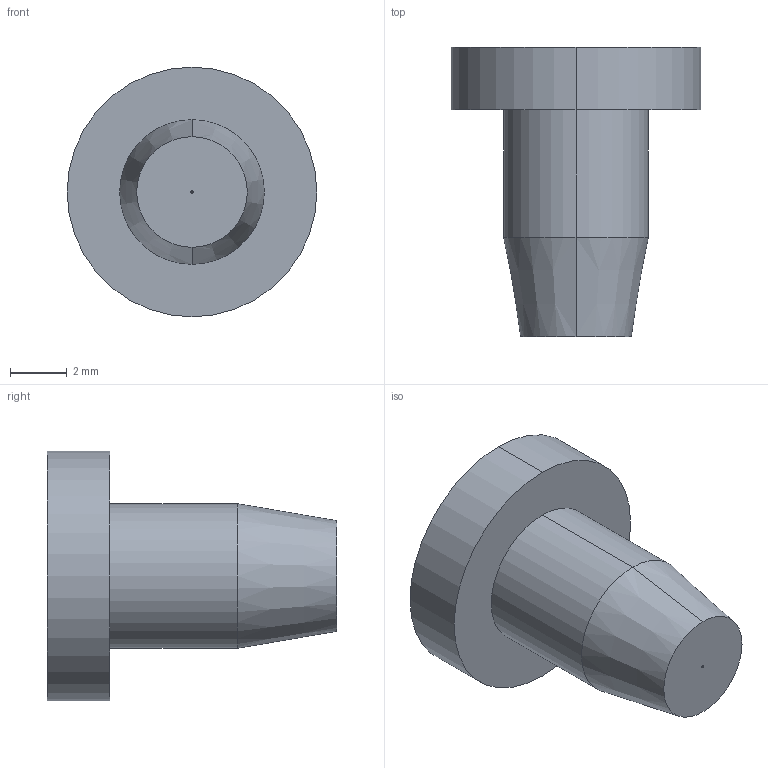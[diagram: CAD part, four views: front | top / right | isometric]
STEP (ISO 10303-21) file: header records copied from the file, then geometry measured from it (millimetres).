
FILE_DESCRIPTION (( 'STEP AP203' ), '1' );
FILE_NAME ('D10010889_D10010889_Anschlagpuffer_Ø5x8_01.step', '2025-04-15T09:04:30', ( '' ), ( '' ), 'SwSTEP 2.0', 'SolidWorks 2023', '' );
FILE_SCHEMA (( 'CONFIG_CONTROL_DESIGN' ));
Length unit declared in the file: millimetre
Products named in the file (1): D10010889_D10010889_Anschlagpuffer_Ø5x8_01
Bounding box: 8.8 x 10.2 x 8.8 mm (x, y, z)
Volume: 281.4 mm3; surface area: 301.1 mm2
Topology: 1 solids, 1 shells, 18 faces, 34 edges, 20 vertices
Faces by surface type: cylinder 8, cone 6, plane 4
Entity records: 531 total; most frequent: DIRECTION 92, CARTESIAN_POINT 73, ORIENTED_EDGE 68, AXIS2_PLACEMENT_3D 39, EDGE_CURVE 34, CIRCLE 20, EDGE_LOOP 20, VERTEX_POINT 20
